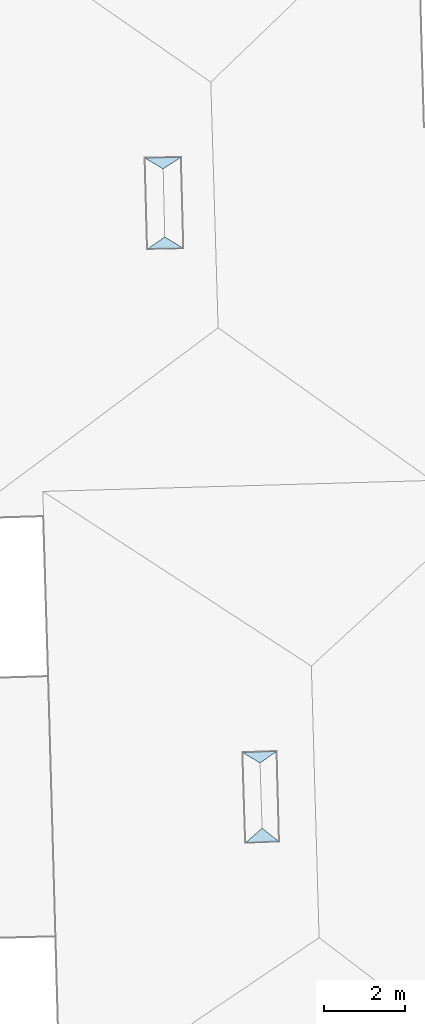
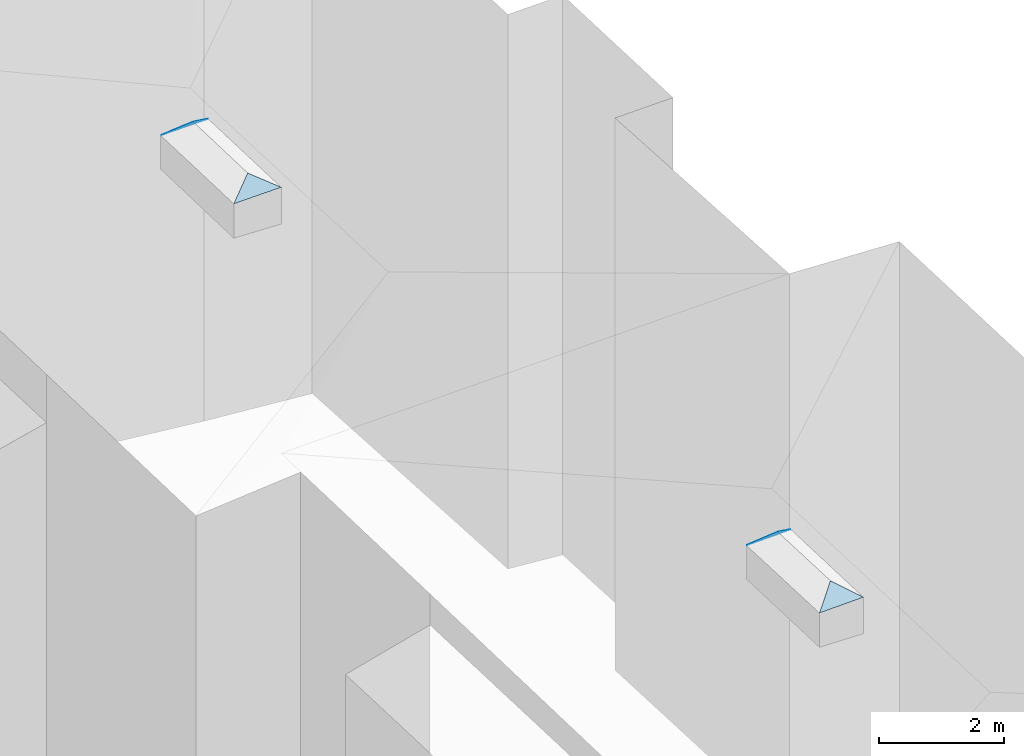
# Not in any storey, part 136 of 136: 8 roofs.
"""IFC2X3 building model written with IfcOpenShell, lengths in metres."""

from ifc_helpers import new_model, entity, si_unit, converted_unit, frame, origin, place, context, subcontext, project, spatial, face_set, surface_model, element, save


model = new_model("IFC2X3")

# Units and contexts
model_context = context("Model", 3, precision=1e-05, world=origin())
body_context = subcontext(model_context, "Body", "Model", "MODEL_VIEW")
ifc_project = project(units=[converted_unit("PLANEANGLEUNIT", "DEGREE", entity("IfcRatioMeasure", 0.0174532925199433), si_unit("PLANEANGLEUNIT", "RADIAN"), dimensions=[0, 0, 0, 0, 0, 0, 0]), si_unit("AREAUNIT", "SQUARE_METRE"), si_unit("LENGTHUNIT", "METRE")], contexts=[model_context])

# Site, building
site_placement = place(None, origin())
site = spatial("IfcSite", under=ifc_project, at=site_placement, Name="_site", CompositionType="ELEMENT")
building_1_placement = place(site_placement, origin())
building_1 = spatial("IfcBuilding", under=site, at=building_1_placement, Name="_building", CompositionType="ELEMENT")

# Roofs
roof_1_placement = place(building_1_placement, origin())
element("IfcRoof", 1, at=roof_1_placement, inside=building_1, Name="Roof", ShapeType="NOTDEFINED", context=body_context, shape_type="SurfaceModel", body=[
    surface_model("IfcFaceBasedSurfaceModel", [(117.55, 146.63, 53.87), (118.44, 146.65, 53.87), (117.98, 146.93, 54.14)], [face_set([[[0, 1, 2]]])]),
])
roof_2_placement = place(building_1_placement, origin())
element("IfcRoof", 2, at=roof_2_placement, inside=building_1, Name="Roof", ShapeType="NOTDEFINED", context=body_context, shape_type="SurfaceModel", body=[
    surface_model("IfcFaceBasedSurfaceModel", [(117.94, 148.601, 54.14), (118.38, 148.89, 53.87), (117.49, 148.87, 53.87)], [face_set([[[0, 1, 2]]])]),
])
roof_3_placement = place(building_1_placement, origin())
element("IfcRoof", 3, at=roof_3_placement, inside=building_1, Name="Roof", ShapeType="NOTDEFINED", context=body_context, shape_type="SurfaceModel", body=[
    surface_model("IfcFaceBasedSurfaceModel", [(117.55, 146.63, 53.87), (118.44, 146.65, 53.87), (117.98, 146.93, 54.14)], [face_set([[[0, 1, 2]]])]),
])
roof_4_placement = place(building_1_placement, origin())
element("IfcRoof", 4, at=roof_4_placement, inside=building_1, Name="Roof", ShapeType="NOTDEFINED", context=body_context, shape_type="SurfaceModel", body=[
    surface_model("IfcFaceBasedSurfaceModel", [(117.94, 148.601, 54.14), (118.38, 148.89, 53.87), (117.49, 148.87, 53.87)], [face_set([[[0, 1, 2]]])]),
])

# Building
building_2_placement = place(site_placement, origin())
building_2 = spatial("IfcBuilding", under=site, at=building_2_placement, Name="_building", CompositionType="ELEMENT")

# Roofs
roof_5_placement = place(building_2_placement, origin())
element("IfcRoof", 5, at=roof_5_placement, inside=building_2, Name="Roof", ShapeType="NOTDEFINED", context=body_context, shape_type="SurfaceModel", body=[
    surface_model("IfcFaceBasedSurfaceModel", [(120.32, 134.01, 54.14), (120.73, 134.3, 53.87), (119.89, 134.271, 53.87)], [face_set([[[0, 1, 2]]])]),
])
for number, where, name in (
    (6, (0.0, 0.0, 0.0), "Roof"),
    (7, (0.0, 0.0, 0.0), "Roof"),
):
    element("IfcRoof", number, at=place(building_2_placement, frame(where)), inside=building_2, Name=name, ShapeType="NOTDEFINED", context=body_context, shape_type="SurfaceModel", body=[
        surface_model("IfcFaceBasedSurfaceModel", [(119.96, 132.05, 53.87), (120.79, 132.08, 53.87), (120.37, 132.41, 54.14)], [face_set([[[0, 1, 2]]])]),
    ])
roof_6_placement = place(building_2_placement, origin())
element("IfcRoof", 8, at=roof_6_placement, inside=building_2, Name="Roof", ShapeType="NOTDEFINED", context=body_context, shape_type="SurfaceModel", body=[
    surface_model("IfcFaceBasedSurfaceModel", [(120.32, 134.01, 54.14), (120.73, 134.3, 53.87), (119.89, 134.271, 53.87)], [face_set([[[0, 1, 2]]])]),
])

save(model, "model.ifc")
